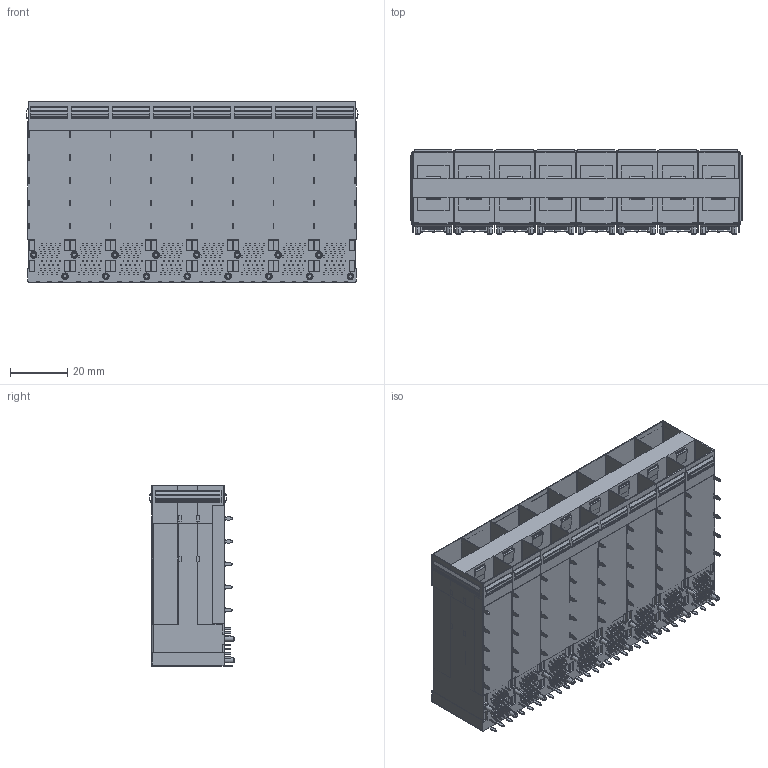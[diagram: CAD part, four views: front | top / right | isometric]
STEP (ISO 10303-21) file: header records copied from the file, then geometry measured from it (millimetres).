
FILE_DESCRIPTION (( 'STEP AP203' ), '1' );
FILE_NAME ('22800_SFP+ 2X8 拸絳嫖翐.STEP', '2024-06-05T00:40:57', ( '' ), ( '' ), 'SwSTEP 2.0', 'SolidWorks 2018', '' );
FILE_SCHEMA (( 'CONFIG_CONTROL_DESIGN' ));
Products named in the file (1): 22800_SFP+ 2X8 拸絳嫖翐
Bounding box: 116.06 x 29.78 x 63.25 mm (x, y, z)
Volume: 93240.8 mm3; surface area: 65468.3 mm2
Topology: 1 solids, 1 shells, 4037 faces, 11163 edges, 7570 vertices
Faces by surface type: plane 3031, cylinder 940, cone 64, sphere 2
Entity records: 128612 total; most frequent: CARTESIAN_POINT 22769, ORIENTED_EDGE 22322, DIRECTION 21185, EDGE_CURVE 11161, VECTOR 9213, LINE 9213, VERTEX_POINT 7570, AXIS2_PLACEMENT_3D 5986
